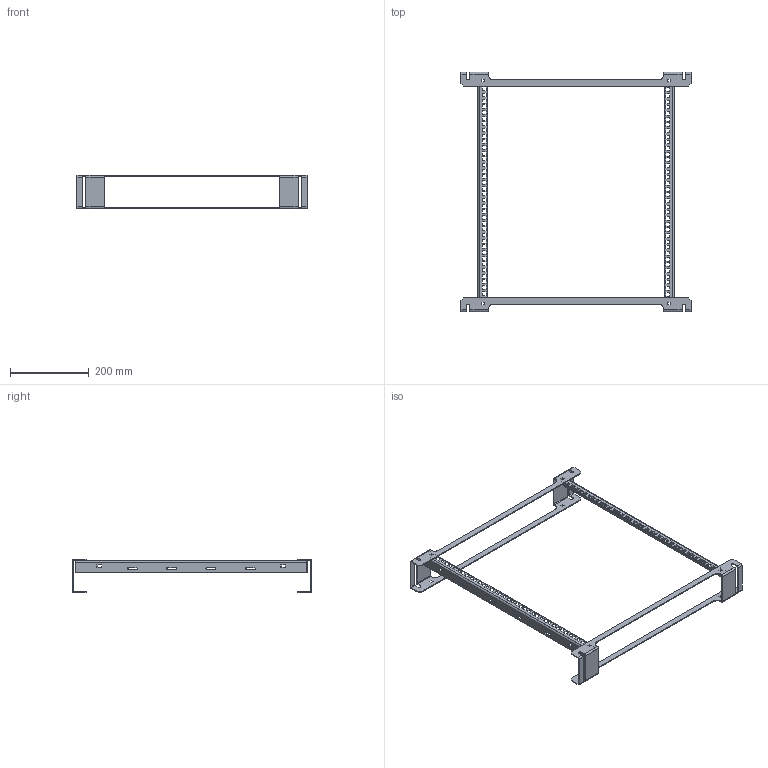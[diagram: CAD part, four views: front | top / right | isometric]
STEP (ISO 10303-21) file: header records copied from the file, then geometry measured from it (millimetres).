
FILE_DESCRIPTION (( 'STEP AP203' ), '1' );
FILE_NAME ('ptra24s.STEP', '2013-07-03T13:31:09', ( 'User' ), ( 'Pentair Inc' ), 'SwSTEP 2.0', 'SolidWorks 2010', '' );
FILE_SCHEMA (( 'CONFIG_CONTROL_DESIGN' ));
Length unit declared in the file: inch
Products named in the file (3): ptra24s; 89072122_87931339; 89060606_89060606
Assembly tree (4 placements, depth 2):
  ptra24s
    89072122_87931339  x2
    89060606_89060606  x2
Bounding box: 585 x 608.51 x 85 mm (x, y, z)
Volume: 284723.7 mm3; surface area: 261583.4 mm2
Topology: 4 solids, 4 shells, 568 faces, 1604 edges, 1032 vertices
Faces by surface type: plane 496, cylinder 72
Entity records: 9569 total; most frequent: CARTESIAN_POINT 1609, ORIENTED_EDGE 1604, DIRECTION 1456, EDGE_CURVE 802, LINE 730, VECTOR 730, VERTEX_POINT 516, EDGE_LOOP 380
